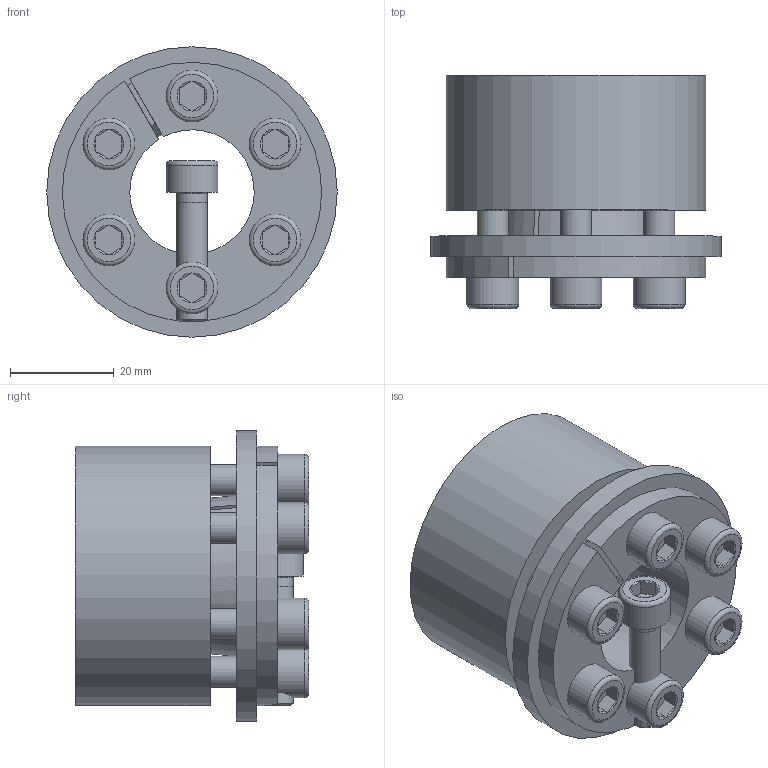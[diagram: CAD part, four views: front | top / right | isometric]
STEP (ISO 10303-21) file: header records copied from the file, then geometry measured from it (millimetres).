
FILE_DESCRIPTION( ( 'Unknown' ), '1' );
FILE_NAME( 'C:/Dokumente und Einstellungen/Sven/Desktop/homepage/cad - homepage/KBS71/KBS 71 - 24 x 50.stp', 'Unknown', ( 'Unknown' ), ( 'Unknown' ), 'XStep 1.0', 'Unknown', ' ' );
FILE_SCHEMA( ( 'automotive_design' ) );
Length unit declared in the file: millimetre
Products named in the file (3): Assem1; KBS 71 - 24 x 50; ISO EN DIN 4762 M6x25
Bounding box: 56 x 45 x 56 mm (x, y, z)
Volume: 104267.8 mm3; surface area: 44857.9 mm2
Topology: 9 solids, 9 shells, 247 faces, 545 edges, 328 vertices
Faces by surface type: plane 116, cylinder 60, cone 57, torus 14
Full cylindrical faces by diameter (mm): 5 x7, 6 x38, 10 x7, 56 x2
Entity records: 2071 total; most frequent: CARTESIAN_POINT 362, DIRECTION 319, ORIENTED_EDGE 260, AXIS2_PLACEMENT_3D 135, EDGE_CURVE 130, EDGE_LOOP 106, VERTEX_POINT 90, FACE_OUTER_BOUND 80
